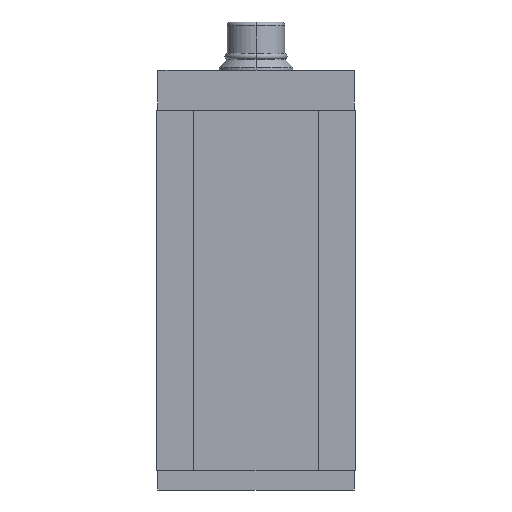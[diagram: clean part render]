
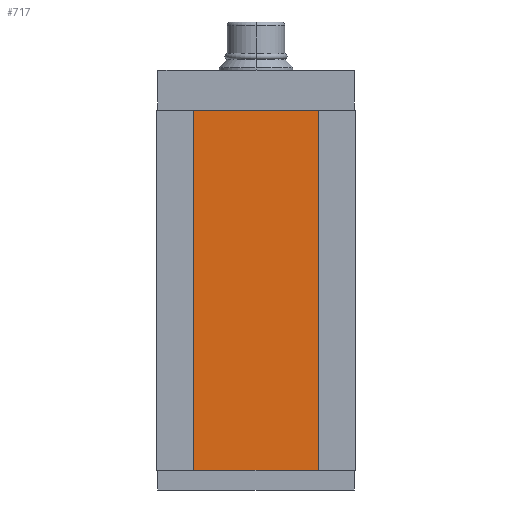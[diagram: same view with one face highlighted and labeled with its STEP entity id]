
A CAD part, front view. The second image highlights one B-rep face of the part: STEP entity #717.
In plain terms, the highlighted planar face has unit normal (0, -1, 0).
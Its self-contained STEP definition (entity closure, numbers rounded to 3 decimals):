
#30 = ORIENTED_EDGE ( 'NONE', *, *, #111, .F. ) ;
#111 = EDGE_CURVE ( 'NONE', #195, #533, #1902, .T. ) ;
#195 = VERTEX_POINT ( 'NONE', #2226 ) ;
#438 = VERTEX_POINT ( 'NONE', #3775 ) ;
#447 = EDGE_CURVE ( 'NONE', #438, #5339, #3856, .T. ) ;
#533 = VERTEX_POINT ( 'NONE', #4307 ) ;
#592 = EDGE_CURVE ( 'NONE', #5339, #533, #4544, .T. ) ;
#635 = ORIENTED_EDGE ( 'NONE', *, *, #592, .T. ) ;
#689 = EDGE_LOOP ( 'NONE', ( #635, #30, #5320, #1470 ) ) ;
#717 = ADVANCED_FACE ( 'NONE', ( #4864 ), #4865, .F. ) ;
#1470 = ORIENTED_EDGE ( 'NONE', *, *, #447, .T. ) ;
#1902 = LINE ( 'NONE', #1903, #1904 ) ;
#1903 = CARTESIAN_POINT ( 'NONE',  ( 26.155, 0., 72.5 ) ) ;
#1904 = VECTOR ( 'NONE', #1906, 1000. ) ;
#1906 = DIRECTION ( 'NONE',  ( 0., 0., -1. ) ) ;
#2226 = CARTESIAN_POINT ( 'NONE',  ( 26.155, 0., 72.5 ) ) ;
#3775 = CARTESIAN_POINT ( 'NONE',  ( -26.155, 0., 72.5 ) ) ;
#3856 = LINE ( 'NONE', #3857, #3858 ) ;
#3857 = CARTESIAN_POINT ( 'NONE',  ( -26.155, 0., 72.5 ) ) ;
#3858 = VECTOR ( 'NONE', #3859, 1000. ) ;
#3859 = DIRECTION ( 'NONE',  ( 0., 0., -1. ) ) ;
#3938 = LINE ( 'NONE', #3939, #3940 ) ;
#3939 = CARTESIAN_POINT ( 'NONE',  ( -26.155, 0., 72.5 ) ) ;
#3940 = VECTOR ( 'NONE', #3941, 1000. ) ;
#3941 = DIRECTION ( 'NONE',  ( 1., 0., 0. ) ) ;
#4124 = CARTESIAN_POINT ( 'NONE',  ( -26.155, 0., -72.5 ) ) ;
#4307 = CARTESIAN_POINT ( 'NONE',  ( 26.155, 0., -72.5 ) ) ;
#4544 = LINE ( 'NONE', #4545, #4546 ) ;
#4545 = CARTESIAN_POINT ( 'NONE',  ( -26.155, 0., -72.5 ) ) ;
#4546 = VECTOR ( 'NONE', #4547, 1000. ) ;
#4547 = DIRECTION ( 'NONE',  ( 1., 0., 0. ) ) ;
#4864 = FACE_OUTER_BOUND ( 'NONE', #689, .T. ) ;
#4865 = PLANE ( 'NONE',  #4866 ) ;
#4866 = AXIS2_PLACEMENT_3D ( 'NONE', #4867, #4868, #4869 ) ;
#4867 = CARTESIAN_POINT ( 'NONE',  ( -26.155, 0., 72.5 ) ) ;
#4868 = DIRECTION ( 'NONE',  ( 0., 1., 0. ) ) ;
#4869 = DIRECTION ( 'NONE',  ( 0., 0., 1. ) ) ;
#5231 = EDGE_CURVE ( 'NONE', #438, #195, #3938, .T. ) ;
#5320 = ORIENTED_EDGE ( 'NONE', *, *, #5231, .F. ) ;
#5339 = VERTEX_POINT ( 'NONE', #4124 ) ;
